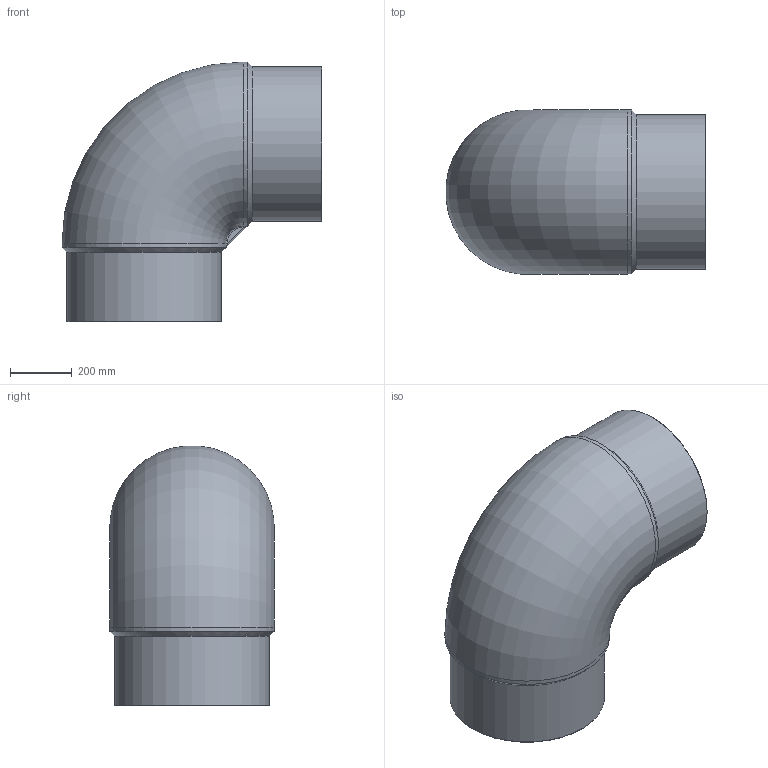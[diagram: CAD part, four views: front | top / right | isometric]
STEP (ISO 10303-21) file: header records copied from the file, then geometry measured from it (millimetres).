
FILE_DESCRIPTION(/* description */ ('Unknown'),/* implementation_level */ '2;1');
FILE_NAME(/* name */ 'G9P500G',/* time_stamp */ '2022-01-10T10:44:13+01:00',/* author */ ('Unknown'),/* organization */ ('Unknown'),/* preprocessor_version */ 'ST-DEVELOPER v18.1',/* originating_system */ 'Solid Edge',/* authorisation */ 'Unknown');
FILE_SCHEMA (('AUTOMOTIVE_DESIGN {1 0 10303 214 3 1 1}'));
Length unit declared in the file: millimetre
Products named in the file (1): G9P500G
Bounding box: 840 x 530.53 x 840 mm (x, y, z)
Volume: 95489203.1 mm3; surface area: 3061890.1 mm2
Topology: 1 solids, 1 shells, 41 faces, 103 edges, 60 vertices
Faces by surface type: cylinder 16, plane 9, bspline 8, torus 4, cone 4
Full cylindrical faces by diameter (mm): 388.4 x2, 500 x2
Entity records: 1352 total; most frequent: CARTESIAN_POINT 479, ORIENTED_EDGE 174, DIRECTION 166, EDGE_CURVE 87, AXIS2_PLACEMENT_3D 73, VERTEX_POINT 56, EDGE_LOOP 51, FACE_BOUND 51
